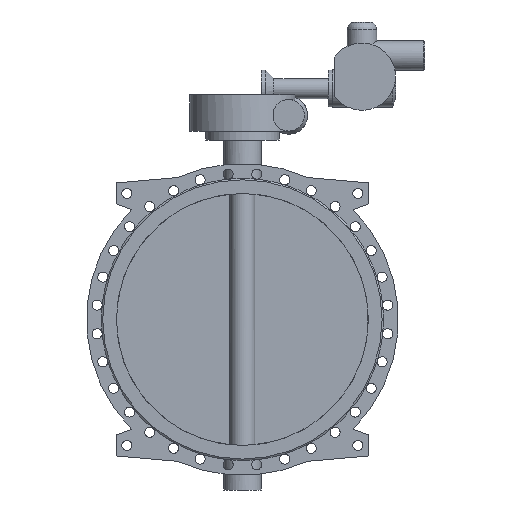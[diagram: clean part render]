
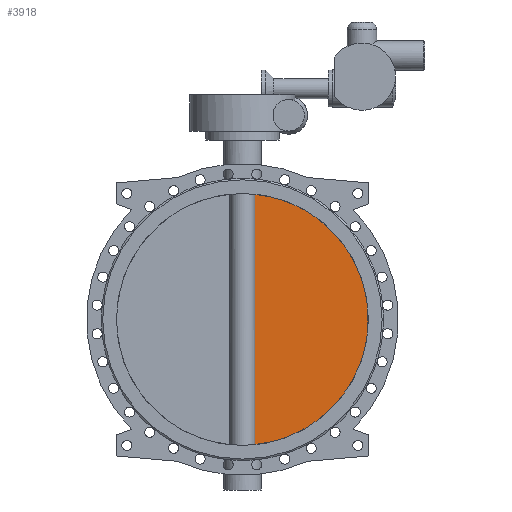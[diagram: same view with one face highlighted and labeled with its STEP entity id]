
A CAD part, front view. The second image highlights one B-rep face of the part: STEP entity #3918.
In plain terms, the highlighted planar face has unit normal (0, -1, 0).
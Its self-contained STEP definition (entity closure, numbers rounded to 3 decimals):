
#3918=ADVANCED_FACE('',(#7348),#7350,.T.);
#7348=FACE_BOUND('',#7349,.T.);
#7349=EDGE_LOOP('',(#9984,#9985));
#7350=PLANE('',#7351);
#7351=AXIS2_PLACEMENT_3D('',#7352,#7353,#7354);
#7352=CARTESIAN_POINT('',(0.,-10.,0.));
#7353=DIRECTION('',(0.,-1.,0.));
#7354=DIRECTION('',(1.,0.,0.));
#9984=ORIENTED_EDGE('',*,*,#11294,.T.);
#9985=ORIENTED_EDGE('',*,*,#11304,.T.);
#11294=EDGE_CURVE('',#13499,#13500,#13501,.F.);
#11304=EDGE_CURVE('',#13500,#13499,#13519,.T.);
#13499=VERTEX_POINT('',#23144);
#13500=VERTEX_POINT('',#23145);
#13501=CIRCLE('',#23146,600.);
#13519=LINE('',#23475,#23476);
#23144=CARTESIAN_POINT('',(59.161,-10.,-597.076));
#23145=CARTESIAN_POINT('',(59.161,-10.,597.076));
#23146=AXIS2_PLACEMENT_3D('',#23147,#23148,#23149);
#23147=CARTESIAN_POINT('',(0.,-10.,0.));
#23148=DIRECTION('',(0.,1.,0.));
#23149=DIRECTION('',(0.099,0.,0.995));
#23475=CARTESIAN_POINT('',(59.161,-10.,597.076));
#23476=VECTOR('',#23477,1.);
#23477=DIRECTION('',(0.,0.,-1.));
